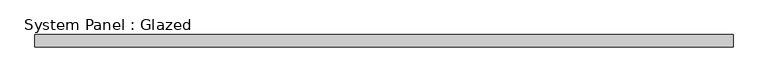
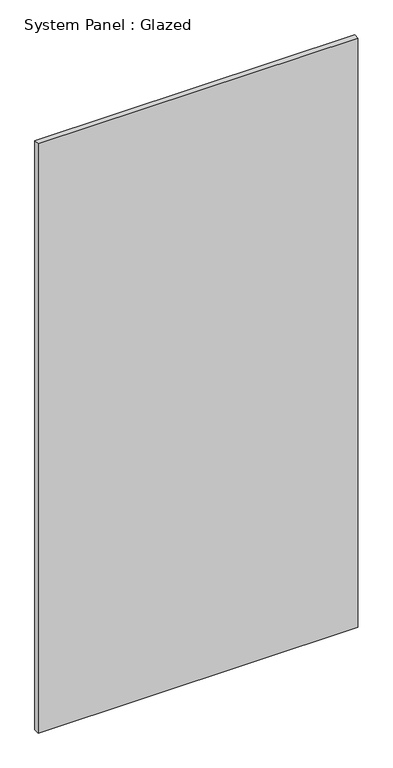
"""IFC4 building model written with IfcOpenShell, lengths in millimetres: plate geometry, System Panel : Glazed."""

from ifc_helpers import new_model, si_unit, origin, origin_with_axes, place, context, project, spatial, polyline, outline, extrude, source, transform, mapped, element, save


def system_panel_glazed_1c2f863c(model_context):
    return source(origin(), model_context, "Body", "SweptSolid", [
        extrude(outline(polyline([(730.25, 19.05), (-730.25, 19.05), (-730.25, 44.45), (730.25, 44.45), (730.25, 19.05)])), origin_with_axes(), (0.0, 0.0, 1.0), 2844.4252182),
    ])


if __name__ == "__main__":
    model = new_model("IFC4")
    model_context = context("Model", 3, world=origin())
    ifc_project = project(units=[si_unit("LENGTHUNIT", "METRE", prefix="MILLI")], contexts=[model_context])
    site = spatial("IfcSite", under=ifc_project)
    building = spatial("IfcBuilding", under=site)
    placement = place(None, origin())
    system_panel_glazed_shape = system_panel_glazed_1c2f863c(model_context)
    element("IfcPlate", 1, ObjectType="System Panel : Glazed", at=placement, inside=building, context=model_context, shape_type="MappedRepresentation", body=[
        mapped(system_panel_glazed_shape, transform((0.0, 0.0, 0.0), x_axis=(1.0, 0.0, 0.0), y_axis=(0.0, 1.0, 0.0), z_axis=(0.0, 0.0, 1.0))),
    ])
    save(model, "model.ifc")
